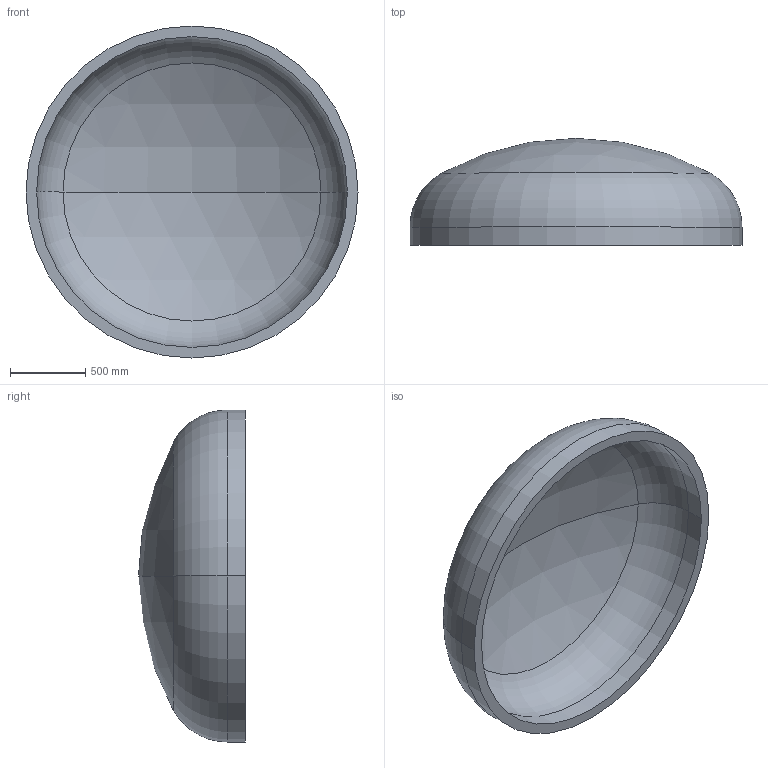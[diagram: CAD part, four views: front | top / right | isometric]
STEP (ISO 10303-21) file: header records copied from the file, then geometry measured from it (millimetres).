
FILE_DESCRIPTION (( 'STEP AP203' ), '1' );
FILE_NAME ('DIN 28013 Korbbogenform_-_Boden DIN 28013 - 2200 x 120 - I - s=70.step', '2016-07-01T14:45:49', ( '' ), ( '' ), 'SwSTEP 2.0', 'SolidWorks 2013', '' );
FILE_SCHEMA (( 'CONFIG_CONTROL_DESIGN' ));
Length unit declared in the file: millimetre
Products named in the file (1): DIN 28013 Korbbogenform_-_Boden DIN 28013 - 2200 x 120 - I - s=70
Bounding box: 2200 x 708.91 x 2200 mm (x, y, z)
Volume: 410012934.4 mm3; surface area: 12193325.7 mm2
Topology: 1 solids, 1 shells, 13 faces, 24 edges, 14 vertices
Faces by surface type: torus 4, cylinder 4, sphere 4, plane 1
Entity records: 407 total; most frequent: DIRECTION 72, CARTESIAN_POINT 52, ORIENTED_EDGE 48, AXIS2_PLACEMENT_3D 34, EDGE_CURVE 24, CIRCLE 20, VERTEX_POINT 14, EDGE_LOOP 14
